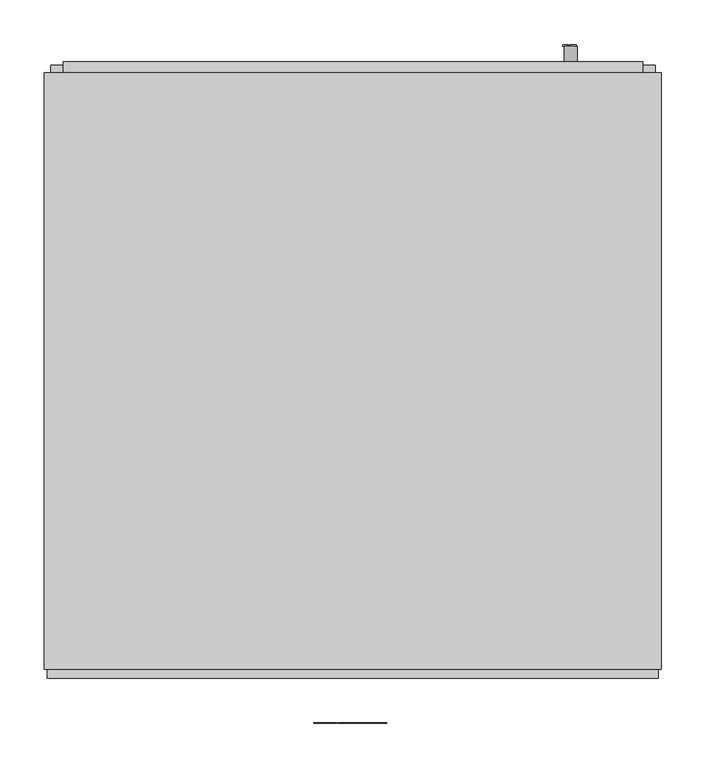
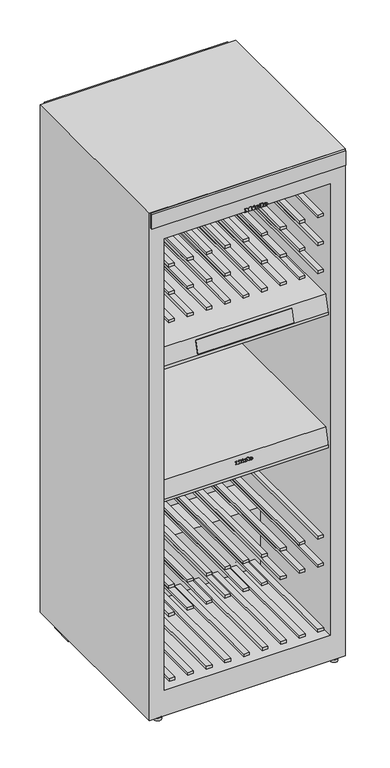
"""IFC4 building model written with IfcOpenShell, lengths in millimetres: proxy geometry, 09472250_AUS_KWT6831SG : 36683100_AUS_9472250_KWT6831SG."""

from ifc_helpers import new_model, si_unit, point, frame, frame_2d, origin, origin_with_axes, place, context, project, spatial, polyline, circle_curve, ellipse_curve, trimmed, segment, composite_curve, outline, extrude, faceted_brep, source, transform, mapped, element, save
from ifc_brep_helpers import plane_surface, cylinder_surface, revolved_surface, extruded_surface, advanced_brep


def specialty_equipment_fe31ec36(model_context):
    return source(origin(), model_context, "Body", "SolidModel", [
        extrude(outline(polyline([(0.0, -5.0), (0.0, 0.0), (342.0, 0.0), (342.0, -5.0), (0.0, -5.0)])), frame((171.0, 69.1703709, 1321.2940952), z_axis=(0.0, 0.25881904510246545, 0.9659258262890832), x_axis=(-1.0, 0.0, 0.0)), (0.0, 0.0, 1.0), 48.0),
        advanced_brep(
        [(21.8256669, 73.8348323, 857.0899422), (21.8256669, 74.0962396, 858.0655273), (28.5156669, 74.0962396, 858.0655273), (16.8756669, 74.0962396, 858.0655273), (19.6256669, 73.2214312, 854.800698), (28.3456669, 73.8348323, 857.0899422), (25.3256669, 73.8348323, 857.0899422), (22.9456669, 73.544955, 856.0081053), (21.8256669, 74.4275279, 859.3019123), (21.8256669, 74.7096407, 860.3547715), (23.5356669, 74.7096407, 860.3547715), (23.5356669, 74.4275279, 859.3019123), (21.8256669, 74.8007582, 856.8311232), (22.9456669, 74.5108808, 855.7492862), (25.3256669, 74.8007582, 856.8311232), (28.3456669, 74.8007582, 856.8311232), (19.6256669, 74.187357, 854.5418789), (16.8756669, 75.0621654, 857.8067082), (28.5156669, 75.0621654, 857.8067082), (21.8256669, 75.0621654, 857.8067082), (21.8256669, 75.3934538, 859.0430933), (23.5356669, 75.3934538, 859.0430933), (23.5356669, 75.6755665, 860.0959524), (21.8256669, 75.6755665, 860.0959524)],
        [
            (0, 1),
            (1, 2),
            (2, 3, ellipse_curve(frame((22.6956669, 74.0962396, 858.0655273), z_axis=(0.0, -0.9659258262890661, 0.2588190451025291), x_axis=(-1.0, 0.0, 0.0)), 5.82, 4.81)),
            (3, 4, circle_curve(frame((20.7457214, 74.184238, 858.3939421), z_axis=(0.0, -0.9659258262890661, 0.2588190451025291), x_axis=(0.0, -0.2588190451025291, -0.9659258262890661)), 3.884961)),
            (4, 5, circle_curve(frame((22.5791589, 74.8675203, 860.9439862), z_axis=(0.0, -0.9659258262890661, 0.2588190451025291), x_axis=(0.0, -0.2588190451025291, -0.9659258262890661)), 7.0123259)),
            (5, 6),
            (6, 7, circle_curve(frame((23.4344904, 74.075534, 857.9882532), z_axis=(0.0, 0.9659258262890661, -0.2588190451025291), x_axis=(0.0, -0.2588190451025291, -0.9659258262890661)), 2.1074744)),
            (7, 0, circle_curve(frame((22.9456669, 73.8348323, 857.0899422), z_axis=(0.0, 0.9659258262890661, -0.2588190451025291), x_axis=(0.0, -0.2588190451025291, -0.9659258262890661)), 1.12)),
            (8, 9),
            (9, 10, circle_curve(frame((22.6806669, 74.7096407, 860.3547715), z_axis=(0.0, 0.9659258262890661, -0.2588190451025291), x_axis=(0.0, -0.2588190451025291, -0.9659258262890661)), 0.855)),
            (10, 11),
            (11, 8),
            (12, 13, circle_curve(frame((22.9456669, 74.8007582, 856.8311232), z_axis=(0.0, -0.9659258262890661, 0.2588190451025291), x_axis=(0.0, -0.2588190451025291, -0.9659258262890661)), 1.12)),
            (13, 14, circle_curve(frame((23.4344904, 75.0414599, 857.7294342), z_axis=(0.0, -0.9659258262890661, 0.2588190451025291), x_axis=(0.0, -0.2588190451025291, -0.9659258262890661)), 2.1074744)),
            (14, 15),
            (15, 16, circle_curve(frame((22.5791589, 75.8334461, 860.6851672), z_axis=(0.0, 0.9659258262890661, -0.2588190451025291), x_axis=(0.0, -0.2588190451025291, -0.9659258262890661)), 7.0123259)),
            (16, 17, circle_curve(frame((20.7457214, 75.1501639, 858.135123), z_axis=(0.0, 0.9659258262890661, -0.2588190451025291), x_axis=(0.0, -0.2588190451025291, -0.9659258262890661)), 3.884961)),
            (17, 18, ellipse_curve(frame((22.6956669, 75.0621654, 857.8067082), z_axis=(0.0, 0.9659258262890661, -0.2588190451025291), x_axis=(-1.0, 0.0, 0.0)), 5.82, 4.81)),
            (18, 19),
            (19, 12),
            (20, 21),
            (21, 22),
            (22, 23, circle_curve(frame((22.6806669, 75.6755665, 860.0959524), z_axis=(0.0, -0.9659258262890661, 0.2588190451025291), x_axis=(0.0, -0.2588190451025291, -0.9659258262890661)), 0.855)),
            (23, 20),
            (0, 12),
            (19, 1),
            (18, 2),
            (5, 15),
            (14, 6),
            (17, 3),
            (13, 7),
            (16, 4),
            (8, 20),
            (23, 9),
            (22, 10),
            (21, 11),
        ],
        [
            plane_surface(frame((21.8256669, 74.0962396, 858.0655273), z_axis=(0.0, -0.9659258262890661, 0.2588190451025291), x_axis=(0.0, 0.2588190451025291, 0.9659258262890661))),
            plane_surface(frame((21.8256669, 75.0621654, 857.8067082), z_axis=(0.0, 0.9659258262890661, -0.2588190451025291), x_axis=(0.0, -0.2588190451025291, -0.9659258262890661))),
            plane_surface(frame((21.8256669, 73.8348323, 857.0899422), z_axis=(1.0, 0.0, 0.0), x_axis=(0.0, 0.9659258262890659, -0.2588190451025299))),
            plane_surface(frame((21.8256669, 74.0962396, 858.0655273), z_axis=(0.0, -0.2588190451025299, -0.9659258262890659), x_axis=(0.0, 0.9659258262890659, -0.2588190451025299))),
            plane_surface(frame((28.3456669, 73.8348323, 857.0899422), z_axis=(0.0, 0.2588190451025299, 0.9659258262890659), x_axis=(0.0, 0.9659258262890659, -0.2588190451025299))),
            extruded_surface(trimmed(ellipse_curve(frame((22.6956669, 76.0280912, 857.5478892), z_axis=(0.0, -0.9659258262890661, 0.2588190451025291), x_axis=(-1.0, 0.0, 0.0)), 5.82, 4.81), [point((28.5156669, 76.0280912, 857.5478892))], [point((16.8756669, 76.0280912, 857.5478892))], True, "CARTESIAN"), (0.0, -0.9659258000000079, 0.2588190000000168), 0.9999999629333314),
            revolved_surface(polyline([(23.4344904, 74.49600539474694, 855.6937702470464), (23.4344904, 73.5300795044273, 855.9525893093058)]), (23.4344904, 75.0414599, 857.7294342), (0.0, 0.9659258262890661, -0.2588190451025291)),
            revolved_surface(polyline([(22.9456669, 74.51088086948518, 855.7492862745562), (22.9456669, 73.5449549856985, 856.0081053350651)]), (22.9456669, 74.8007582, 856.8311232), (0.0, 0.9659258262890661, -0.2588190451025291)),
            cylinder_surface(frame((20.7457214, 75.1501639, 858.135123), z_axis=(0.0, -0.9659258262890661, 0.2588190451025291), x_axis=(0.0, -0.2588190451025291, -0.9659258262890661)), 3.884961),
            cylinder_surface(frame((22.5791589, 75.8334461, 860.6851672), z_axis=(0.0, -0.9659258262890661, 0.2588190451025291), x_axis=(0.0, -0.2588190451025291, -0.9659258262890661)), 7.0123259),
            plane_surface(frame((21.8256669, 74.4275279, 859.3019123), z_axis=(1.0, 0.0, 0.0), x_axis=(0.0, 0.9659258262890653, -0.25881904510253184))),
            revolved_surface(polyline([(22.6806669, 75.45427621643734, 859.2700858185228), (22.6806669, 74.48835040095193, 859.5289048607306)]), (22.6806669, 75.6755665, 860.0959524), (0.0, 0.9659258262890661, -0.2588190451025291)),
            plane_surface(frame((23.5356669, 74.7096407, 860.3547715), z_axis=(-1.0, 0.0, 0.0), x_axis=(0.0, 0.9659258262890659, -0.2588190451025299))),
            plane_surface(frame((23.5356669, 74.4275279, 859.3019123), z_axis=(0.0, 0.2588190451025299, 0.9659258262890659), x_axis=(0.0, 0.9659258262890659, -0.2588190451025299))),
        ],
        [
            (0, [[1, 2, 3, 4, 5, 6, 7, 8], [9, 10, 11, 12]]),
            (1, [[13, 14, 15, 16, 17, 18, 19, 20], [21, 22, 23, 24]]),
            (2, [[-1, 25, -20, 26]]),
            (3, [[-2, -26, -19, 27]]),
            (4, [[-6, 28, -15, 29]]),
            (5, [[-3, -27, -18, 30]]),
            (6, [[-7, -29, -14, 31]]),
            (7, [[-8, -31, -13, -25]]),
            (8, [[-4, -30, -17, 32]]),
            (9, [[-5, -32, -16, -28]]),
            (10, [[-9, 33, -24, 34]]),
            (11, [[-10, -34, -23, 35]]),
            (12, [[-11, -35, -22, 36]]),
            (13, [[-12, -36, -21, -33]]),
        ],
    ),
        advanced_brep(
        [(0.9556669, 73.8348323, 857.0899422), (0.9556669, 74.0962396, 858.0655273), (7.6456669, 74.0962396, 858.0655273), (-3.9943331, 74.0962396, 858.0655273), (-1.2443331, 73.2214312, 854.800698), (7.4756669, 73.8348323, 857.0899422), (4.4556669, 73.8348323, 857.0899422), (2.0756669, 73.544955, 856.0081053), (0.9556669, 74.4275279, 859.3019123), (0.9556669, 74.7096407, 860.3547715), (2.6656669, 74.7096407, 860.3547715), (2.6656669, 74.4275279, 859.3019123), (0.9556669, 74.8007582, 856.8311232), (2.0756669, 74.5108808, 855.7492862), (4.4556669, 74.8007582, 856.8311232), (7.4756669, 74.8007582, 856.8311232), (-1.2443331, 74.187357, 854.5418789), (-3.9943331, 75.0621654, 857.8067082), (7.6456669, 75.0621654, 857.8067082), (0.9556669, 75.0621654, 857.8067082), (0.9556669, 75.3934538, 859.0430933), (2.6656669, 75.3934538, 859.0430933), (2.6656669, 75.6755665, 860.0959524), (0.9556669, 75.6755665, 860.0959524)],
        [
            (0, 1),
            (1, 2),
            (2, 3, ellipse_curve(frame((1.8256669, 74.0962396, 858.0655273), z_axis=(0.0, -0.9659258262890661, 0.2588190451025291), x_axis=(-1.0, 0.0, 0.0)), 5.82, 4.81)),
            (3, 4, circle_curve(frame((-0.1242786, 74.184238, 858.3939421), z_axis=(0.0, -0.9659258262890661, 0.2588190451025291), x_axis=(0.0, -0.2588190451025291, -0.9659258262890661)), 3.884961)),
            (4, 5, circle_curve(frame((1.7091589, 74.8675203, 860.9439862), z_axis=(0.0, -0.9659258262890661, 0.2588190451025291), x_axis=(0.0, -0.2588190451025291, -0.9659258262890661)), 7.0123259)),
            (5, 6),
            (6, 7, circle_curve(frame((2.5644904, 74.075534, 857.9882532), z_axis=(0.0, 0.9659258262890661, -0.2588190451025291), x_axis=(0.0, -0.2588190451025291, -0.9659258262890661)), 2.1074744)),
            (7, 0, circle_curve(frame((2.0756669, 73.8348323, 857.0899422), z_axis=(0.0, 0.9659258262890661, -0.2588190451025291), x_axis=(0.0, -0.2588190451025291, -0.9659258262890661)), 1.12)),
            (8, 9),
            (9, 10, circle_curve(frame((1.8106669, 74.7096407, 860.3547715), z_axis=(0.0, 0.9659258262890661, -0.2588190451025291), x_axis=(0.0, -0.2588190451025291, -0.9659258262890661)), 0.855)),
            (10, 11),
            (11, 8),
            (12, 13, circle_curve(frame((2.0756669, 74.8007582, 856.8311232), z_axis=(0.0, -0.9659258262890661, 0.2588190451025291), x_axis=(0.0, -0.2588190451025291, -0.9659258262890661)), 1.12)),
            (13, 14, circle_curve(frame((2.5644904, 75.0414599, 857.7294342), z_axis=(0.0, -0.9659258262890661, 0.2588190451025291), x_axis=(0.0, -0.2588190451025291, -0.9659258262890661)), 2.1074744)),
            (14, 15),
            (15, 16, circle_curve(frame((1.7091589, 75.8334461, 860.6851672), z_axis=(0.0, 0.9659258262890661, -0.2588190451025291), x_axis=(0.0, -0.2588190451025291, -0.9659258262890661)), 7.0123259)),
            (16, 17, circle_curve(frame((-0.1242786, 75.1501639, 858.135123), z_axis=(0.0, 0.9659258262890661, -0.2588190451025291), x_axis=(0.0, -0.2588190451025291, -0.9659258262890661)), 3.884961)),
            (17, 18, ellipse_curve(frame((1.8256669, 75.0621654, 857.8067082), z_axis=(0.0, 0.9659258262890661, -0.2588190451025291), x_axis=(-1.0, 0.0, 0.0)), 5.82, 4.81)),
            (18, 19),
            (19, 12),
            (20, 21),
            (21, 22),
            (22, 23, circle_curve(frame((1.8106669, 75.6755665, 860.0959524), z_axis=(0.0, -0.9659258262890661, 0.2588190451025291), x_axis=(0.0, -0.2588190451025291, -0.9659258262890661)), 0.855)),
            (23, 20),
            (0, 12),
            (19, 1),
            (18, 2),
            (5, 15),
            (14, 6),
            (17, 3),
            (13, 7),
            (16, 4),
            (8, 20),
            (23, 9),
            (22, 10),
            (21, 11),
        ],
        [
            plane_surface(frame((0.9556669, 74.0962396, 858.0655273), z_axis=(0.0, -0.9659258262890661, 0.2588190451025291), x_axis=(0.0, 0.2588190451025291, 0.9659258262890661))),
            plane_surface(frame((0.9556669, 75.0621654, 857.8067082), z_axis=(0.0, 0.9659258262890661, -0.2588190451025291), x_axis=(0.0, -0.2588190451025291, -0.9659258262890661))),
            plane_surface(frame((0.9556669, 73.8348323, 857.0899422), z_axis=(1.0, 0.0, 0.0), x_axis=(0.0, 0.9659258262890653, -0.25881904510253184))),
            plane_surface(frame((0.9556669, 74.0962396, 858.0655273), z_axis=(0.0, -0.2588190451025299, -0.9659258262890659), x_axis=(0.0, 0.9659258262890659, -0.2588190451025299))),
            plane_surface(frame((7.4756669, 73.8348323, 857.0899422), z_axis=(0.0, 0.2588190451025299, 0.9659258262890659), x_axis=(0.0, 0.9659258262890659, -0.2588190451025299))),
            extruded_surface(trimmed(ellipse_curve(frame((1.8256669, 76.0280912, 857.5478892), z_axis=(0.0, -0.9659258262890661, 0.2588190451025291), x_axis=(-1.0, 0.0, 0.0)), 5.82, 4.81), [point((7.6456669, 76.0280912, 857.5478892))], [point((-3.9943331, 76.0280912, 857.5478892))], True, "CARTESIAN"), (0.0, -0.9659258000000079, 0.2588190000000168), 0.9999999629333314),
            revolved_surface(polyline([(2.5644904, 74.49600539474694, 855.6937702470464), (2.5644904, 73.5300795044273, 855.9525893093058)]), (2.5644904, 75.0414599, 857.7294342), (0.0, 0.9659258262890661, -0.2588190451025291)),
            revolved_surface(polyline([(2.0756669, 74.51088086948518, 855.7492862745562), (2.0756669, 73.5449549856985, 856.0081053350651)]), (2.0756669, 74.8007582, 856.8311232), (0.0, 0.9659258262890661, -0.2588190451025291)),
            cylinder_surface(frame((-0.1242786, 75.1501639, 858.135123), z_axis=(0.0, -0.9659258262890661, 0.2588190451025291), x_axis=(0.0, -0.2588190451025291, -0.9659258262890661)), 3.884961),
            cylinder_surface(frame((1.7091589, 75.8334461, 860.6851672), z_axis=(0.0, -0.9659258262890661, 0.2588190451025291), x_axis=(0.0, -0.2588190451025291, -0.9659258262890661)), 7.0123259),
            plane_surface(frame((0.9556669, 74.4275279, 859.3019123), z_axis=(1.0, 0.0, 0.0), x_axis=(0.0, 0.9659258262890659, -0.2588190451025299))),
            revolved_surface(polyline([(1.8106669, 75.45427621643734, 859.2700858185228), (1.8106669, 74.48835040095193, 859.5289048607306)]), (1.8106669, 75.6755665, 860.0959524), (0.0, 0.9659258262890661, -0.2588190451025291)),
            plane_surface(frame((2.6656669, 74.7096407, 860.3547715), z_axis=(-1.0, 0.0, 0.0), x_axis=(0.0, 0.9659258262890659, -0.2588190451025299))),
            plane_surface(frame((2.6656669, 74.4275279, 859.3019123), z_axis=(0.0, 0.2588190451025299, 0.9659258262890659), x_axis=(0.0, 0.9659258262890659, -0.2588190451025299))),
        ],
        [
            (0, [[1, 2, 3, 4, 5, 6, 7, 8], [9, 10, 11, 12]]),
            (1, [[13, 14, 15, 16, 17, 18, 19, 20], [21, 22, 23, 24]]),
            (2, [[-1, 25, -20, 26]]),
            (3, [[-2, -26, -19, 27]]),
            (4, [[-6, 28, -15, 29]]),
            (5, [[-3, -27, -18, 30]]),
            (6, [[-7, -29, -14, 31]]),
            (7, [[-8, -31, -13, -25]]),
            (8, [[-4, -30, -17, 32]]),
            (9, [[-5, -32, -16, -28]]),
            (10, [[-9, 33, -24, 34]]),
            (11, [[-10, -34, -23, 35]]),
            (12, [[-11, -35, -22, 36]]),
            (13, [[-12, -36, -21, -33]]),
        ],
    ),
        extrude(outline(polyline([(0.0, 0.0), (-0.0136358, -3.7491618), (-1.7988019, -3.7401085), (-1.7894134, 0.0), (0.0, 0.0)])), frame((-9.9743331, 76.6228442, 863.631241), z_axis=(0.0, -0.9659258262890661, 0.2588190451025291), x_axis=(-0.42472021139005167, 0.2343152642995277, 0.874476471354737)), (0.0, 0.0, 1.0), 1.0),
        extrude(outline(polyline([(-0.6167384, 3.0176371), (-3.4751054, -3.0751979), (-8.8074678, -0.5735958), (-9.3001432, -1.6237724), (-10.8210887, -0.9102424), (-7.4700462, 6.2327691), (-5.9491008, 5.5192392), (-6.4545178, 4.4419028), (-2.7426867, 2.70055), (-2.2372696, 3.7778863), (-0.6167384, 3.0176371)])), frame((-9.9743331, 76.6228442, 863.631241), z_axis=(0.0, -0.9659258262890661, 0.2588190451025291), x_axis=(-0.42472021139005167, 0.2343152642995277, 0.874476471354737)), (0.0, 0.0, 1.0), 1.0),
        extrude(outline(polyline([(0.0, 0.0), (0.0, -1.63), (-6.88, -1.63), (-6.88, 6.69), (-8.11, 6.69), (-8.11, 8.37), (0.0, 8.37), (0.0, 6.69), (-1.2, 6.69), (-1.2, 0.0), (0.0, 0.0)])), frame((8.2056669, 76.3536724, 862.6266781), z_axis=(0.0, -0.9659258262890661, 0.2588190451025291), x_axis=(-1.0, 0.0, 0.0)), (0.0, 0.0, 1.0), 1.0),
        extrude(outline(polyline([(0.0, 0.0), (0.0, -1.63), (-6.97, -1.63), (-9.9, 2.12), (-12.82, -1.63), (-18.91, -1.63), (-18.91, 0.0), (-17.64, 0.0), (-17.64, 6.69), (-18.91, 6.69), (-18.91, 8.37), (-10.93, 8.37), (-10.93, 6.69), (-12.16, 6.69), (-12.16, 2.3807777), (-7.67, 8.37), (-3.2, 2.4488752), (-3.2, 6.69), (-4.4, 6.69), (-4.4, 8.37), (0.0, 8.37), (0.0, 6.69), (-1.21, 6.69), (-1.21, 0.0), (0.0, 0.0)])), frame((-32.3743331, 76.3536724, 862.6266781), z_axis=(0.0, -0.9659258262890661, 0.2588190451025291), x_axis=(-1.0, 0.0, 0.0)), (0.0, 0.0, 1.0), 1.0),
        advanced_brep(
        [(29.17, -1.0, 1856.2526911), (29.17, -1.0, 1857.6161911), (38.2015, -1.0, 1857.6161911), (22.4875, -1.0, 1857.6161911), (26.2, -1.0, 1853.0531911), (37.972, -1.0, 1856.2526911), (33.895, -1.0, 1856.2526911), (30.682, -1.0, 1854.7406911), (29.17, -1.0, 1859.3441911), (29.17, -1.0, 1860.8156911), (31.4785, -1.0, 1860.8156911), (31.4785, -1.0, 1859.3441911), (29.17, 0.0, 1856.2526911), (30.682, 0.0, 1854.7406911), (33.895, 0.0, 1856.2526911), (37.972, 0.0, 1856.2526911), (26.2, 0.0, 1853.0531911), (22.4875, 0.0, 1857.6161911), (38.2015, 0.0, 1857.6161911), (29.17, 0.0, 1857.6161911), (29.17, 0.0, 1859.3441911), (31.4785, 0.0, 1859.3441911), (31.4785, 0.0, 1860.8156911), (29.17, 0.0, 1860.8156911)],
        [
            (0, 1),
            (1, 2),
            (2, 3, ellipse_curve(frame((30.3445, -1.0, 1857.6161911), z_axis=(0.0, -1.0, 0.0), x_axis=(-1.0, 0.0, 0.0)), 7.857, 6.4935)),
            (3, 4, circle_curve(frame((27.7120736, -1.0, 1858.0751911), z_axis=(0.0, -1.0, 0.0), x_axis=(0.0, 0.0, -1.0)), 5.2446974)),
            (4, 5, circle_curve(frame((30.1872142, -1.0, 1861.6391911), z_axis=(0.0, -1.0, 0.0), x_axis=(0.0, 0.0, -1.0)), 9.46664)),
            (5, 6),
            (6, 7, circle_curve(frame((31.3419118, -1.0, 1857.5081911), z_axis=(0.0, 1.0, 0.0), x_axis=(0.0, 0.0, -1.0)), 2.8450905)),
            (7, 0, circle_curve(frame((30.682, -1.0, 1856.2526911), z_axis=(0.0, 1.0, 0.0), x_axis=(0.0, 0.0, -1.0)), 1.512)),
            (8, 9),
            (9, 10, circle_curve(frame((30.32425, -1.0, 1860.8156911), z_axis=(0.0, 1.0, 0.0), x_axis=(0.0, 0.0, -1.0)), 1.15425)),
            (10, 11),
            (11, 8),
            (12, 13, circle_curve(frame((30.682, 0.0, 1856.2526911), z_axis=(0.0, -1.0, 0.0), x_axis=(0.0, 0.0, -1.0)), 1.512)),
            (13, 14, circle_curve(frame((31.3419118, 0.0, 1857.5081911), z_axis=(0.0, -1.0, 0.0), x_axis=(0.0, 0.0, -1.0)), 2.8450905)),
            (14, 15),
            (15, 16, circle_curve(frame((30.1872142, 0.0, 1861.6391911), z_axis=(0.0, 1.0, 0.0), x_axis=(0.0, 0.0, -1.0)), 9.46664)),
            (16, 17, circle_curve(frame((27.7120736, 0.0, 1858.0751911), z_axis=(0.0, 1.0, 0.0), x_axis=(0.0, 0.0, -1.0)), 5.2446974)),
            (17, 18, ellipse_curve(frame((30.3445, 0.0, 1857.6161911), z_axis=(0.0, 1.0, 0.0), x_axis=(-1.0, 0.0, 0.0)), 7.857, 6.4935)),
            (18, 19),
            (19, 12),
            (20, 21),
            (21, 22),
            (22, 23, circle_curve(frame((30.32425, 0.0, 1860.8156911), z_axis=(0.0, -1.0, 0.0), x_axis=(0.0, 0.0, -1.0)), 1.15425)),
            (23, 20),
            (0, 12),
            (19, 1),
            (18, 2),
            (5, 15),
            (14, 6),
            (17, 3),
            (13, 7),
            (16, 4),
            (8, 20),
            (23, 9),
            (22, 10),
            (21, 11),
        ],
        [
            plane_surface(frame((29.17, -1.0, 1857.6161911), z_axis=(0.0, -1.0, 0.0), x_axis=(0.0, 0.0, 1.0))),
            plane_surface(frame((29.17, 0.0, 1857.6161911), z_axis=(0.0, 1.0, 0.0), x_axis=(0.0, 0.0, -1.0))),
            plane_surface(frame((29.17, -1.0, 1856.2526911), z_axis=(1.0, 0.0, 0.0), x_axis=(0.0, 1.0, 0.0))),
            plane_surface(frame((29.17, -1.0, 1857.6161911), z_axis=(0.0, 0.0, -1.0), x_axis=(0.0, 1.0, 0.0))),
            plane_surface(frame((37.972, -1.0, 1856.2526911), z_axis=(0.0, 0.0, 1.0), x_axis=(0.0, 1.0, 0.0))),
            extruded_surface(trimmed(ellipse_curve(frame((30.3445, 1.0, 1857.6161911), z_axis=(0.0, -1.0, 0.0), x_axis=(-1.0, 0.0, 0.0)), 7.857, 6.4935), [point((38.2015, 1.0, 1857.6161911))], [point((22.4875, 1.0, 1857.6161911))], True, "CARTESIAN"), (0.0, -1.0, 0.0), 1.0),
            revolved_surface(polyline([(31.3419118, 0.0, 1854.6631006), (31.3419118, -1.0, 1854.6631006)]), (31.3419118, 0.0, 1857.5081911), (0.0, 1.0, 0.0)),
            revolved_surface(polyline([(30.682, 0.0, 1854.7406911), (30.682, -1.0, 1854.7406911)]), (30.682, 0.0, 1856.2526911), (0.0, 1.0, 0.0)),
            cylinder_surface(frame((27.7120736, 0.0, 1858.0751911), z_axis=(0.0, -1.0, 0.0), x_axis=(0.0, 0.0, -1.0)), 5.2446974),
            cylinder_surface(frame((30.1872142, 0.0, 1861.6391911), z_axis=(0.0, -1.0, 0.0), x_axis=(0.0, 0.0, -1.0)), 9.46664),
            plane_surface(frame((29.17, -1.0, 1859.3441911), z_axis=(1.0, 0.0, 0.0), x_axis=(0.0, 1.0, 0.0))),
            revolved_surface(polyline([(30.32425, 0.0, 1859.6614411), (30.32425, -1.0, 1859.6614411)]), (30.32425, 0.0, 1860.8156911), (0.0, 1.0, 0.0)),
            plane_surface(frame((31.4785, -1.0, 1860.8156911), z_axis=(-1.0, 0.0, 0.0), x_axis=(0.0, 1.0, 0.0))),
            plane_surface(frame((31.4785, -1.0, 1859.3441911), z_axis=(0.0, 0.0, 1.0), x_axis=(0.0, 1.0, 0.0))),
        ],
        [
            (0, [[1, 2, 3, 4, 5, 6, 7, 8], [9, 10, 11, 12]]),
            (1, [[13, 14, 15, 16, 17, 18, 19, 20], [21, 22, 23, 24]]),
            (2, [[-1, 25, -20, 26]]),
            (3, [[-2, -26, -19, 27]]),
            (4, [[-6, 28, -15, 29]]),
            (5, [[-3, -27, -18, 30]]),
            (6, [[-7, -29, -14, 31]]),
            (7, [[-8, -31, -13, -25]]),
            (8, [[-4, -30, -17, 32]]),
            (9, [[-5, -32, -16, -28]]),
            (10, [[-9, 33, -24, 34]]),
            (11, [[-10, -34, -23, 35]]),
            (12, [[-11, -35, -22, 36]]),
            (13, [[-12, -36, -21, -33]]),
        ],
    ),
        advanced_brep(
        [(0.9955, -1.0, 1856.2526911), (0.9955, -1.0, 1857.6161911), (10.027, -1.0, 1857.6161911), (-5.687, -1.0, 1857.6161911), (-1.9745, -1.0, 1853.0531911), (9.7975, -1.0, 1856.2526911), (5.7205, -1.0, 1856.2526911), (2.5075, -1.0, 1854.7406911), (0.9955, -1.0, 1859.3441911), (0.9955, -1.0, 1860.8156911), (3.304, -1.0, 1860.8156911), (3.304, -1.0, 1859.3441911), (0.9955, 0.0, 1856.2526911), (2.5075, 0.0, 1854.7406911), (5.7205, 0.0, 1856.2526911), (9.7975, 0.0, 1856.2526911), (-1.9745, 0.0, 1853.0531911), (-5.687, 0.0, 1857.6161911), (10.027, 0.0, 1857.6161911), (0.9955, 0.0, 1857.6161911), (0.9955, 0.0, 1859.3441911), (3.304, 0.0, 1859.3441911), (3.304, 0.0, 1860.8156911), (0.9955, 0.0, 1860.8156911)],
        [
            (0, 1),
            (1, 2),
            (2, 3, ellipse_curve(frame((2.17, -1.0, 1857.6161911), z_axis=(0.0, -1.0, 0.0), x_axis=(-1.0, 0.0, 0.0)), 7.857, 6.4935)),
            (3, 4, circle_curve(frame((-0.4624264, -1.0, 1858.0751911), z_axis=(0.0, -1.0, 0.0), x_axis=(0.0, 0.0, -1.0)), 5.2446974)),
            (4, 5, circle_curve(frame((2.0127142, -1.0, 1861.6391911), z_axis=(0.0, -1.0, 0.0), x_axis=(0.0, 0.0, -1.0)), 9.46664)),
            (5, 6),
            (6, 7, circle_curve(frame((3.1674118, -1.0, 1857.5081911), z_axis=(0.0, 1.0, 0.0), x_axis=(0.0, 0.0, -1.0)), 2.8450905)),
            (7, 0, circle_curve(frame((2.5075, -1.0, 1856.2526911), z_axis=(0.0, 1.0, 0.0), x_axis=(0.0, 0.0, -1.0)), 1.512)),
            (8, 9),
            (9, 10, circle_curve(frame((2.14975, -1.0, 1860.8156911), z_axis=(0.0, 1.0, 0.0), x_axis=(0.0, 0.0, -1.0)), 1.15425)),
            (10, 11),
            (11, 8),
            (12, 13, circle_curve(frame((2.5075, 0.0, 1856.2526911), z_axis=(0.0, -1.0, 0.0), x_axis=(0.0, 0.0, -1.0)), 1.512)),
            (13, 14, circle_curve(frame((3.1674118, 0.0, 1857.5081911), z_axis=(0.0, -1.0, 0.0), x_axis=(0.0, 0.0, -1.0)), 2.8450905)),
            (14, 15),
            (15, 16, circle_curve(frame((2.0127142, 0.0, 1861.6391911), z_axis=(0.0, 1.0, 0.0), x_axis=(0.0, 0.0, -1.0)), 9.46664)),
            (16, 17, circle_curve(frame((-0.4624264, 0.0, 1858.0751911), z_axis=(0.0, 1.0, 0.0), x_axis=(0.0, 0.0, -1.0)), 5.2446974)),
            (17, 18, ellipse_curve(frame((2.17, 0.0, 1857.6161911), z_axis=(0.0, 1.0, 0.0), x_axis=(-1.0, 0.0, 0.0)), 7.857, 6.4935)),
            (18, 19),
            (19, 12),
            (20, 21),
            (21, 22),
            (22, 23, circle_curve(frame((2.14975, 0.0, 1860.8156911), z_axis=(0.0, -1.0, 0.0), x_axis=(0.0, 0.0, -1.0)), 1.15425)),
            (23, 20),
            (0, 12),
            (19, 1),
            (18, 2),
            (5, 15),
            (14, 6),
            (17, 3),
            (13, 7),
            (16, 4),
            (8, 20),
            (23, 9),
            (22, 10),
            (21, 11),
        ],
        [
            plane_surface(frame((0.9955, -1.0, 1857.6161911), z_axis=(0.0, -1.0, 0.0), x_axis=(0.0, 0.0, 1.0))),
            plane_surface(frame((0.9955, 0.0, 1857.6161911), z_axis=(0.0, 1.0, 0.0), x_axis=(0.0, 0.0, -1.0))),
            plane_surface(frame((0.9955, -1.0, 1856.2526911), z_axis=(1.0, 0.0, 0.0), x_axis=(0.0, 1.0, 0.0))),
            plane_surface(frame((0.9955, -1.0, 1857.6161911), z_axis=(0.0, 0.0, -1.0), x_axis=(0.0, 1.0, 0.0))),
            plane_surface(frame((9.7975, -1.0, 1856.2526911), z_axis=(0.0, 0.0, 1.0), x_axis=(0.0, 1.0, 0.0))),
            extruded_surface(trimmed(ellipse_curve(frame((2.17, 1.0, 1857.6161911), z_axis=(0.0, -1.0, 0.0), x_axis=(-1.0, 0.0, 0.0)), 7.857, 6.4935), [point((10.027, 1.0, 1857.6161911))], [point((-5.687, 1.0, 1857.6161911))], True, "CARTESIAN"), (0.0, -1.0, 0.0), 1.0),
            revolved_surface(polyline([(3.1674118, 0.0, 1854.6631006), (3.1674118, -1.0, 1854.6631006)]), (3.1674118, 0.0, 1857.5081911), (0.0, 1.0, 0.0)),
            revolved_surface(polyline([(2.5075, 0.0, 1854.7406911), (2.5075, -1.0, 1854.7406911)]), (2.5075, 0.0, 1856.2526911), (0.0, 1.0, 0.0)),
            cylinder_surface(frame((-0.4624264, 0.0, 1858.0751911), z_axis=(0.0, -1.0, 0.0), x_axis=(0.0, 0.0, -1.0)), 5.2446974),
            cylinder_surface(frame((2.0127142, 0.0, 1861.6391911), z_axis=(0.0, -1.0, 0.0), x_axis=(0.0, 0.0, -1.0)), 9.46664),
            plane_surface(frame((0.9955, -1.0, 1859.3441911), z_axis=(1.0, 0.0, 0.0), x_axis=(0.0, 1.0, 0.0))),
            revolved_surface(polyline([(2.14975, 0.0, 1859.6614411), (2.14975, -1.0, 1859.6614411)]), (2.14975, 0.0, 1860.8156911), (0.0, 1.0, 0.0)),
            plane_surface(frame((3.304, -1.0, 1860.8156911), z_axis=(-1.0, 0.0, 0.0), x_axis=(0.0, 1.0, 0.0))),
            plane_surface(frame((3.304, -1.0, 1859.3441911), z_axis=(0.0, 0.0, 1.0), x_axis=(0.0, 1.0, 0.0))),
        ],
        [
            (0, [[1, 2, 3, 4, 5, 6, 7, 8], [9, 10, 11, 12]]),
            (1, [[13, 14, 15, 16, 17, 18, 19, 20], [21, 22, 23, 24]]),
            (2, [[-1, 25, -20, 26]]),
            (3, [[-2, -26, -19, 27]]),
            (4, [[-6, 28, -15, 29]]),
            (5, [[-3, -27, -18, 30]]),
            (6, [[-7, -29, -14, 31]]),
            (7, [[-8, -31, -13, -25]]),
            (8, [[-4, -30, -17, 32]]),
            (9, [[-5, -32, -16, -28]]),
            (10, [[-9, 33, -24, 34]]),
            (11, [[-10, -34, -23, 35]]),
            (12, [[-11, -35, -22, 36]]),
            (13, [[-12, -36, -21, -33]]),
        ],
    ),
        extrude(outline(polyline([(1865.7566911, -13.76), (1863.5696911, -12.734), (1865.7026911, -8.1575), (1867.8896911, -9.17), (1865.7566911, -13.76)])), frame((0.0, -1.0, 0.0), z_axis=(0.0, 1.0, 0.0), x_axis=(0.0, 0.0, 1.0)), (0.0, 0.0, 1.0), 1.0),
        extrude(outline(polyline([(1863.2726911, -17.0945), (1860.8561911, -17.0945), (1860.8561911, -15.488), (1855.3211911, -15.488), (1855.3211911, -17.0945), (1853.0531911, -17.0945), (1853.0531911, -6.443), (1855.3211911, -6.443), (1855.3211911, -8.009), (1863.2726911, -8.009), (1863.2726911, -17.0945)])), frame((0.0, -1.0, 0.0), z_axis=(0.0, 1.0, 0.0), x_axis=(0.0, 0.0, 1.0)), (0.0, 0.0, 1.0), 1.0),
        extrude(outline(polyline([(1864.3526911, 10.783), (1864.3526911, 12.403), (1855.3211911, 12.403), (1855.3211911, 10.783), (1853.0531911, 10.783), (1853.0531911, 21.7315), (1855.3211911, 21.7315), (1855.3211911, 20.071), (1866.5531911, 20.071), (1866.5531911, 10.783), (1864.3526911, 10.783)])), frame((0.0, -1.0, 0.0), z_axis=(0.0, 1.0, 0.0), x_axis=(0.0, 0.0, 1.0)), (0.0, 0.0, 1.0), 1.0),
        extrude(outline(polyline([(1864.3526911, -44.0), (1864.3526911, -42.3665), (1855.3211911, -42.3665), (1855.3211911, -44.0), (1853.0531911, -44.0), (1853.0531911, -38.06), (1855.3211911, -38.06), (1855.3211911, -39.68), (1861.0288159, -39.68), (1853.0531911, -33.6455), (1861.3059134, -27.584), (1855.3211911, -27.584), (1855.3211911, -29.2445), (1853.0531911, -29.2445), (1853.0531911, -18.4715), (1855.3211911, -18.4715), (1855.3211911, -20.186), (1864.3526911, -20.186), (1864.3526911, -18.4715), (1866.5531911, -18.4715), (1866.5531911, -26.693), (1861.4906911, -30.635), (1866.5531911, -34.5905), (1866.5531911, -44.0), (1864.3526911, -44.0)])), frame((0.0, -1.0, 0.0), z_axis=(0.0, 1.0, 0.0), x_axis=(0.0, 0.0, 1.0)), (0.0, 0.0, 1.0), 1.0),
        extrude(outline(composite_curve([segment(trimmed(circle_curve(frame_2d((45.0, 246.0)), 7.5), [point((45.0, 253.5))], [point((45.0, 238.5))], False, "CARTESIAN"), True, "CONTINUOUS"), segment(trimmed(circle_curve(frame_2d((45.0, 246.0)), 7.5), [point((45.0, 238.5))], [point((45.0, 253.5))], False, "CARTESIAN"), True, "CONTINUOUS")], self_intersect=False)), frame((0.0, 734.0, 0.0), z_axis=(0.0, 1.0, 0.0), x_axis=(0.0, 0.0, 1.0)), (0.0, 0.0, 1.0), 30.0),
        faceted_brep([(348.5, 734.0, 1920.0), (-348.5, 734.0, 1920.0), (-348.5, 60.0, 1920.0), (348.5, 60.0, 1920.0), (348.5, 734.0, 10.0), (-348.5, 734.0, 10.0), (-348.5, 60.0, 10.0), (348.5, 60.0, 10.0), (-295.0, 60.0, 1806.0), (295.0, 60.0, 1806.0), (295.0, 60.0, 106.0), (-295.0, 60.0, 106.0), (295.0, 632.0, 1806.0), (-295.0, 632.0, 1806.0), (-295.0, 632.0, 106.0), (295.0, 632.0, 106.0)], [[[0, 1, 2, 3]], [[1, 0, 4, 5]], [[2, 1, 5, 6]], [[3, 2, 6, 7], [8, 9, 10, 11]], [[0, 3, 7, 4]], [[12, 13, 14, 15]], [[13, 12, 9, 8]], [[14, 13, 8, 11]], [[15, 14, 11, 10]], [[12, 15, 10, 9]], [[5, 4, 7, 6]]]),
        extrude(outline(polyline([(295.0, 490.0), (-295.0, 490.0), (-295.0, 632.0), (295.0, 632.0), (295.0, 490.0)])), frame((0.0, 0.0, 106.0), z_axis=(0.0, 0.0, 1.0), x_axis=(1.0, 0.0, 0.0)), (0.0, 0.0, 1.0), 224.0),
        extrude(outline(composite_curve([segment(polyline([(665.0, 10.0), (695.0, 10.0)]), True, "CONTINUOUS"), segment(trimmed(circle_curve(frame_2d((680.0, 16.25)), 16.25), [point((695.0, 10.0))], [point((665.0, 10.0))], False, "CARTESIAN"), True, "CONTINUOUS")], self_intersect=False)), frame((-315.0, 0.0, 0.0), z_axis=(1.0, 0.0, 0.0), x_axis=(0.0, 1.0, 0.0)), (0.0, 0.0, 1.0), 24.1081034),
        extrude(outline(composite_curve([segment(polyline([(665.0, 10.0), (695.0, 10.0)]), True, "CONTINUOUS"), segment(trimmed(circle_curve(frame_2d((680.0, 16.25)), 16.25), [point((695.0, 10.0))], [point((665.0, 10.0))], False, "CARTESIAN"), True, "CONTINUOUS")], self_intersect=False)), frame((290.8918966, 0.0, 0.0), z_axis=(1.0, 0.0, 0.0), x_axis=(0.0, 1.0, 0.0)), (0.0, 0.0, 1.0), 24.1081034),
        extrude(outline(composite_curve([segment(trimmed(circle_curve(frame_2d((-314.0, 69.5)), 12.5), [point((-301.5, 69.5))], [point((-326.5, 69.5))], False, "CARTESIAN"), True, "CONTINUOUS"), segment(trimmed(circle_curve(frame_2d((-314.0, 69.5)), 12.5), [point((-326.5, 69.5))], [point((-301.5, 69.5))], False, "CARTESIAN"), True, "CONTINUOUS")], self_intersect=False)), origin_with_axes(), (0.0, 0.0, 1.0), 10.0),
        extrude(outline(composite_curve([segment(trimmed(circle_curve(frame_2d((314.0, 69.5)), 12.5), [point((326.5, 69.5))], [point((301.5, 69.5))], False, "CARTESIAN"), True, "CONTINUOUS"), segment(trimmed(circle_curve(frame_2d((314.0, 69.5)), 12.5), [point((301.5, 69.5))], [point((326.5, 69.5))], False, "CARTESIAN"), True, "CONTINUOUS")], self_intersect=False)), origin_with_axes(), (0.0, 0.0, 1.0), 10.0),
        extrude(outline(polyline([(328.9654711, 650.0), (344.9654711, 650.0), (344.9654711, 565.0), (328.9654711, 565.0), (328.9654711, 650.0)])), origin_with_axes(), (0.0, 0.0, 1.0), 10.0),
        extrude(outline(polyline([(-328.9654711, 650.0), (-328.9654711, 565.0), (-344.9654711, 565.0), (-344.9654711, 650.0), (-328.9654711, 650.0)])), origin_with_axes(), (0.0, 0.0, 1.0), 10.0),
        extrude(outline(polyline([(-341.3064832, 742.5), (-325.3064832, 742.5), (-325.3064832, 734.0), (-341.3064832, 734.0), (-341.3064832, 742.5)])), frame((0.0, 0.0, 270.0), z_axis=(0.0, 0.0, 1.0), x_axis=(1.0, 0.0, 0.0)), (0.0, 0.0, 1.0), 38.0),
        extrude(outline(polyline([(325.3064832, 742.5), (341.3064832, 742.5), (341.3064832, 734.0), (325.3064832, 734.0), (325.3064832, 742.5)])), frame((0.0, 0.0, 270.0), z_axis=(0.0, 0.0, 1.0), x_axis=(1.0, 0.0, 0.0)), (0.0, 0.0, 1.0), 38.0),
        extrude(outline(polyline([(-327.2489208, 746.5), (327.2489208, 746.5), (327.2489208, 734.0), (-327.2489208, 734.0), (-327.2489208, 746.5)])), frame((0.0, 0.0, 1839.0), z_axis=(0.0, 0.0, 1.0), x_axis=(1.0, 0.0, 0.0)), (0.0, 0.0, 1.0), 75.0),
        extrude(outline(polyline([(40.3401878, 252.5265002), (50.3858188, 252.5265002), (50.3858188, 245.3062029), (49.1301149, 245.3062029), (49.1301149, 251.2707963), (46.1478182, 251.2707963), (46.1478182, 245.6201289), (44.8921143, 245.6201289), (44.8921143, 251.2707963), (41.5958917, 251.2707963), (41.5958917, 245.1492399), (40.3401878, 245.1492399), (40.3401878, 252.5265002)])), frame((0.0, 764.0, 0.0), z_axis=(0.0, 1.0, 0.0), x_axis=(0.0, 0.0, 1.0)), (0.0, 0.0, 1.0), 2.0),
        extrude(outline(polyline([(40.3401878, 243.2656841), (50.3858188, 243.2656841), (50.3858188, 242.0099802), (41.5958917, 242.0099802), (41.5958917, 236.9871647), (40.3401878, 236.9871647), (40.3401878, 243.2656841)])), frame((0.0, 764.0, 0.0), z_axis=(0.0, 1.0, 0.0), x_axis=(0.0, 0.0, 1.0)), (0.0, 0.0, 1.0), 2.0),
        extrude(outline(polyline([(-345.0, 60.0), (345.0, 60.0), (345.0, 50.0), (-345.0, 50.0), (-345.0, 60.0)])), frame((0.0, 0.0, 1865.0), z_axis=(0.0, 0.0, 1.0), x_axis=(1.0, 0.0, 0.0)), (0.0, 0.0, 1.0), 54.0),
        extrude(outline(polyline([(10.0, 67.0438353), (-10.0, 67.0438353), (-10.0, 632.0), (10.0, 632.0), (10.0, 67.0438353)])), frame((0.0, 0.0, 372.0), z_axis=(0.0, 0.0, 1.0), x_axis=(1.0, 0.0, 0.0)), (0.0, 0.0, 1.0), 10.0),
        extrude(outline(polyline([(-56.25, 67.0438353), (-76.25, 67.0438353), (-76.25, 632.0), (-56.25, 632.0), (-56.25, 67.0438353)])), frame((0.0, 0.0, 372.0), z_axis=(0.0, 0.0, 1.0), x_axis=(1.0, 0.0, 0.0)), (0.0, 0.0, 1.0), 10.0),
        extrude(outline(polyline([(-122.5, 67.0438353), (-142.5, 67.0438353), (-142.5, 632.0), (-122.5, 632.0), (-122.5, 67.0438353)])), frame((0.0, 0.0, 372.0), z_axis=(0.0, 0.0, 1.0), x_axis=(1.0, 0.0, 0.0)), (0.0, 0.0, 1.0), 10.0),
        extrude(outline(polyline([(-188.75, 67.0438353), (-208.75, 67.0438353), (-208.75, 632.0), (-188.75, 632.0), (-188.75, 67.0438353)])), frame((0.0, 0.0, 372.0), z_axis=(0.0, 0.0, 1.0), x_axis=(1.0, 0.0, 0.0)), (0.0, 0.0, 1.0), 10.0),
        extrude(outline(polyline([(-255.0, 67.0438353), (-275.0, 67.0438353), (-275.0, 632.0), (-255.0, 632.0), (-255.0, 67.0438353)])), frame((0.0, 0.0, 372.0), z_axis=(0.0, 0.0, 1.0), x_axis=(1.0, 0.0, 0.0)), (0.0, 0.0, 1.0), 10.0),
        extrude(outline(polyline([(76.25, 67.0438353), (56.25, 67.0438353), (56.25, 632.0), (76.25, 632.0), (76.25, 67.0438353)])), frame((0.0, 0.0, 372.0), z_axis=(0.0, 0.0, 1.0), x_axis=(1.0, 0.0, 0.0)), (0.0, 0.0, 1.0), 10.0),
        extrude(outline(polyline([(142.5, 67.0438353), (122.5, 67.0438353), (122.5, 632.0), (142.5, 632.0), (142.5, 67.0438353)])), frame((0.0, 0.0, 372.0), z_axis=(0.0, 0.0, 1.0), x_axis=(1.0, 0.0, 0.0)), (0.0, 0.0, 1.0), 10.0),
        extrude(outline(polyline([(208.75, 67.0438353), (188.75, 67.0438353), (188.75, 632.0), (208.75, 632.0), (208.75, 67.0438353)])), frame((0.0, 0.0, 372.0), z_axis=(0.0, 0.0, 1.0), x_axis=(1.0, 0.0, 0.0)), (0.0, 0.0, 1.0), 10.0),
        extrude(outline(polyline([(275.0, 67.0438353), (255.0, 67.0438353), (255.0, 632.0), (275.0, 632.0), (275.0, 67.0438353)])), frame((0.0, 0.0, 372.0), z_axis=(0.0, 0.0, 1.0), x_axis=(1.0, 0.0, 0.0)), (0.0, 0.0, 1.0), 10.0),
        extrude(outline(polyline([(10.0, 67.0438353), (-10.0, 67.0438353), (-10.0, 632.0), (10.0, 632.0), (10.0, 67.0438353)])), frame((0.0, 0.0, 478.0), z_axis=(0.0, 0.0, 1.0), x_axis=(1.0, 0.0, 0.0)), (0.0, 0.0, 1.0), 10.0),
        extrude(outline(polyline([(-56.25, 67.0438353), (-76.25, 67.0438353), (-76.25, 632.0), (-56.25, 632.0), (-56.25, 67.0438353)])), frame((0.0, 0.0, 478.0), z_axis=(0.0, 0.0, 1.0), x_axis=(1.0, 0.0, 0.0)), (0.0, 0.0, 1.0), 10.0),
        extrude(outline(polyline([(-122.5, 67.0438353), (-142.5, 67.0438353), (-142.5, 632.0), (-122.5, 632.0), (-122.5, 67.0438353)])), frame((0.0, 0.0, 478.0), z_axis=(0.0, 0.0, 1.0), x_axis=(1.0, 0.0, 0.0)), (0.0, 0.0, 1.0), 10.0),
        extrude(outline(polyline([(-188.75, 67.0438353), (-208.75, 67.0438353), (-208.75, 632.0), (-188.75, 632.0), (-188.75, 67.0438353)])), frame((0.0, 0.0, 478.0), z_axis=(0.0, 0.0, 1.0), x_axis=(1.0, 0.0, 0.0)), (0.0, 0.0, 1.0), 10.0),
        extrude(outline(polyline([(-255.0, 67.0438353), (-275.0, 67.0438353), (-275.0, 632.0), (-255.0, 632.0), (-255.0, 67.0438353)])), frame((0.0, 0.0, 478.0), z_axis=(0.0, 0.0, 1.0), x_axis=(1.0, 0.0, 0.0)), (0.0, 0.0, 1.0), 10.0),
        extrude(outline(polyline([(76.25, 67.0438353), (56.25, 67.0438353), (56.25, 632.0), (76.25, 632.0), (76.25, 67.0438353)])), frame((0.0, 0.0, 478.0), z_axis=(0.0, 0.0, 1.0), x_axis=(1.0, 0.0, 0.0)), (0.0, 0.0, 1.0), 10.0),
        extrude(outline(polyline([(142.5, 67.0438353), (122.5, 67.0438353), (122.5, 632.0), (142.5, 632.0), (142.5, 67.0438353)])), frame((0.0, 0.0, 478.0), z_axis=(0.0, 0.0, 1.0), x_axis=(1.0, 0.0, 0.0)), (0.0, 0.0, 1.0), 10.0),
        extrude(outline(polyline([(208.75, 67.0438353), (188.75, 67.0438353), (188.75, 632.0), (208.75, 632.0), (208.75, 67.0438353)])), frame((0.0, 0.0, 478.0), z_axis=(0.0, 0.0, 1.0), x_axis=(1.0, 0.0, 0.0)), (0.0, 0.0, 1.0), 10.0),
        extrude(outline(polyline([(275.0, 67.0438353), (255.0, 67.0438353), (255.0, 632.0), (275.0, 632.0), (275.0, 67.0438353)])), frame((0.0, 0.0, 478.0), z_axis=(0.0, 0.0, 1.0), x_axis=(1.0, 0.0, 0.0)), (0.0, 0.0, 1.0), 10.0),
        extrude(outline(polyline([(10.0, 64.8678355), (-10.0, 64.8678355), (-10.0, 490.0), (10.0, 490.0), (10.0, 64.8678355)])), frame((0.0, 0.0, 129.0), z_axis=(0.0, 0.0, 1.0), x_axis=(1.0, 0.0, 0.0)), (0.0, 0.0, 1.0), 10.0),
        extrude(outline(polyline([(-56.25, 64.8678355), (-76.25, 64.8678355), (-76.25, 490.0), (-56.25, 490.0), (-56.25, 64.8678355)])), frame((0.0, 0.0, 129.0), z_axis=(0.0, 0.0, 1.0), x_axis=(1.0, 0.0, 0.0)), (0.0, 0.0, 1.0), 10.0),
        extrude(outline(polyline([(-122.5, 64.8678355), (-142.5, 64.8678355), (-142.5, 490.0), (-122.5, 490.0), (-122.5, 64.8678355)])), frame((0.0, 0.0, 129.0), z_axis=(0.0, 0.0, 1.0), x_axis=(1.0, 0.0, 0.0)), (0.0, 0.0, 1.0), 10.0),
        extrude(outline(polyline([(-188.75, 64.8678355), (-208.75, 64.8678355), (-208.75, 490.0), (-188.75, 490.0), (-188.75, 64.8678355)])), frame((0.0, 0.0, 129.0), z_axis=(0.0, 0.0, 1.0), x_axis=(1.0, 0.0, 0.0)), (0.0, 0.0, 1.0), 10.0),
        extrude(outline(polyline([(-255.0, 64.8678355), (-275.0, 64.8678355), (-275.0, 490.0), (-255.0, 490.0), (-255.0, 64.8678355)])), frame((0.0, 0.0, 129.0), z_axis=(0.0, 0.0, 1.0), x_axis=(1.0, 0.0, 0.0)), (0.0, 0.0, 1.0), 10.0),
        extrude(outline(polyline([(76.25, 64.8678355), (56.25, 64.8678355), (56.25, 490.0), (76.25, 490.0), (76.25, 64.8678355)])), frame((0.0, 0.0, 129.0), z_axis=(0.0, 0.0, 1.0), x_axis=(1.0, 0.0, 0.0)), (0.0, 0.0, 1.0), 10.0),
        extrude(outline(polyline([(142.5, 64.8678355), (122.5, 64.8678355), (122.5, 490.0), (142.5, 490.0), (142.5, 64.8678355)])), frame((0.0, 0.0, 129.0), z_axis=(0.0, 0.0, 1.0), x_axis=(1.0, 0.0, 0.0)), (0.0, 0.0, 1.0), 10.0),
        extrude(outline(polyline([(208.75, 64.8678355), (188.75, 64.8678355), (188.75, 490.0), (208.75, 490.0), (208.75, 64.8678355)])), frame((0.0, 0.0, 129.0), z_axis=(0.0, 0.0, 1.0), x_axis=(1.0, 0.0, 0.0)), (0.0, 0.0, 1.0), 10.0),
        extrude(outline(polyline([(275.0, 64.8678355), (255.0, 64.8678355), (255.0, 490.0), (275.0, 490.0), (275.0, 64.8678355)])), frame((0.0, 0.0, 129.0), z_axis=(0.0, 0.0, 1.0), x_axis=(1.0, 0.0, 0.0)), (0.0, 0.0, 1.0), 10.0),
        extrude(outline(polyline([(84.9596802, 877.0), (632.0, 877.0), (632.0, 807.0), (70.0, 807.0), (70.0, 817.0), (84.9596802, 877.0)])), frame((-295.0, 0.0, 0.0), z_axis=(1.0, 0.0, 0.0), x_axis=(0.0, 1.0, 0.0)), (0.0, 0.0, 1.0), 590.0),
        extrude(outline(polyline([(70.0, 1307.0), (70.0, 1317.0), (86.0769515, 1377.0), (632.0, 1377.0), (632.0, 1307.0), (70.0, 1307.0)])), frame((-295.0, 0.0, 0.0), z_axis=(1.0, 0.0, 0.0), x_axis=(0.0, 1.0, 0.0)), (0.0, 0.0, 1.0), 590.0),
        extrude(outline(polyline([(10.0, 67.0438353), (-10.0, 67.0438353), (-10.0, 632.0), (10.0, 632.0), (10.0, 67.0438353)])), frame((0.0, 0.0, 1688.0), z_axis=(0.0, 0.0, 1.0), x_axis=(1.0, 0.0, 0.0)), (0.0, 0.0, 1.0), 10.0),
        extrude(outline(polyline([(-56.25, 67.0438353), (-76.25, 67.0438353), (-76.25, 632.0), (-56.25, 632.0), (-56.25, 67.0438353)])), frame((0.0, 0.0, 1688.0), z_axis=(0.0, 0.0, 1.0), x_axis=(1.0, 0.0, 0.0)), (0.0, 0.0, 1.0), 10.0),
        extrude(outline(polyline([(-122.5, 67.0438353), (-142.5, 67.0438353), (-142.5, 632.0), (-122.5, 632.0), (-122.5, 67.0438353)])), frame((0.0, 0.0, 1688.0), z_axis=(0.0, 0.0, 1.0), x_axis=(1.0, 0.0, 0.0)), (0.0, 0.0, 1.0), 10.0),
        extrude(outline(polyline([(-188.75, 67.0438353), (-208.75, 67.0438353), (-208.75, 632.0), (-188.75, 632.0), (-188.75, 67.0438353)])), frame((0.0, 0.0, 1688.0), z_axis=(0.0, 0.0, 1.0), x_axis=(1.0, 0.0, 0.0)), (0.0, 0.0, 1.0), 10.0),
        extrude(outline(polyline([(-255.0, 67.0438353), (-275.0, 67.0438353), (-275.0, 632.0), (-255.0, 632.0), (-255.0, 67.0438353)])), frame((0.0, 0.0, 1688.0), z_axis=(0.0, 0.0, 1.0), x_axis=(1.0, 0.0, 0.0)), (0.0, 0.0, 1.0), 10.0),
        extrude(outline(polyline([(76.25, 67.0438353), (56.25, 67.0438353), (56.25, 632.0), (76.25, 632.0), (76.25, 67.0438353)])), frame((0.0, 0.0, 1688.0), z_axis=(0.0, 0.0, 1.0), x_axis=(1.0, 0.0, 0.0)), (0.0, 0.0, 1.0), 10.0),
        extrude(outline(polyline([(142.5, 67.0438353), (122.5, 67.0438353), (122.5, 632.0), (142.5, 632.0), (142.5, 67.0438353)])), frame((0.0, 0.0, 1688.0), z_axis=(0.0, 0.0, 1.0), x_axis=(1.0, 0.0, 0.0)), (0.0, 0.0, 1.0), 10.0),
        extrude(outline(polyline([(208.75, 67.0438353), (188.75, 67.0438353), (188.75, 632.0), (208.75, 632.0), (208.75, 67.0438353)])), frame((0.0, 0.0, 1688.0), z_axis=(0.0, 0.0, 1.0), x_axis=(1.0, 0.0, 0.0)), (0.0, 0.0, 1.0), 10.0),
        extrude(outline(polyline([(275.0, 67.0438353), (255.0, 67.0438353), (255.0, 632.0), (275.0, 632.0), (275.0, 67.0438353)])), frame((0.0, 0.0, 1688.0), z_axis=(0.0, 0.0, 1.0), x_axis=(1.0, 0.0, 0.0)), (0.0, 0.0, 1.0), 10.0),
        extrude(outline(polyline([(10.0, 67.0438353), (-10.0, 67.0438353), (-10.0, 632.0), (10.0, 632.0), (10.0, 67.0438353)])), frame((0.0, 0.0, 1583.0), z_axis=(0.0, 0.0, 1.0), x_axis=(1.0, 0.0, 0.0)), (0.0, 0.0, 1.0), 10.0),
        extrude(outline(polyline([(-56.25, 67.0438353), (-76.25, 67.0438353), (-76.25, 632.0), (-56.25, 632.0), (-56.25, 67.0438353)])), frame((0.0, 0.0, 1583.0), z_axis=(0.0, 0.0, 1.0), x_axis=(1.0, 0.0, 0.0)), (0.0, 0.0, 1.0), 10.0),
        extrude(outline(polyline([(-122.5, 67.0438353), (-142.5, 67.0438353), (-142.5, 632.0), (-122.5, 632.0), (-122.5, 67.0438353)])), frame((0.0, 0.0, 1583.0), z_axis=(0.0, 0.0, 1.0), x_axis=(1.0, 0.0, 0.0)), (0.0, 0.0, 1.0), 10.0),
        extrude(outline(polyline([(-188.75, 67.0438353), (-208.75, 67.0438353), (-208.75, 632.0), (-188.75, 632.0), (-188.75, 67.0438353)])), frame((0.0, 0.0, 1583.0), z_axis=(0.0, 0.0, 1.0), x_axis=(1.0, 0.0, 0.0)), (0.0, 0.0, 1.0), 10.0),
        extrude(outline(polyline([(-255.0, 67.0438353), (-275.0, 67.0438353), (-275.0, 632.0), (-255.0, 632.0), (-255.0, 67.0438353)])), frame((0.0, 0.0, 1583.0), z_axis=(0.0, 0.0, 1.0), x_axis=(1.0, 0.0, 0.0)), (0.0, 0.0, 1.0), 10.0),
        extrude(outline(polyline([(76.25, 67.0438353), (56.25, 67.0438353), (56.25, 632.0), (76.25, 632.0), (76.25, 67.0438353)])), frame((0.0, 0.0, 1583.0), z_axis=(0.0, 0.0, 1.0), x_axis=(1.0, 0.0, 0.0)), (0.0, 0.0, 1.0), 10.0),
        extrude(outline(polyline([(142.5, 67.0438353), (122.5, 67.0438353), (122.5, 632.0), (142.5, 632.0), (142.5, 67.0438353)])), frame((0.0, 0.0, 1583.0), z_axis=(0.0, 0.0, 1.0), x_axis=(1.0, 0.0, 0.0)), (0.0, 0.0, 1.0), 10.0),
        extrude(outline(polyline([(208.75, 67.0438353), (188.75, 67.0438353), (188.75, 632.0), (208.75, 632.0), (208.75, 67.0438353)])), frame((0.0, 0.0, 1583.0), z_axis=(0.0, 0.0, 1.0), x_axis=(1.0, 0.0, 0.0)), (0.0, 0.0, 1.0), 10.0),
        extrude(outline(polyline([(275.0, 67.0438353), (255.0, 67.0438353), (255.0, 632.0), (275.0, 632.0), (275.0, 67.0438353)])), frame((0.0, 0.0, 1583.0), z_axis=(0.0, 0.0, 1.0), x_axis=(1.0, 0.0, 0.0)), (0.0, 0.0, 1.0), 10.0),
        extrude(outline(polyline([(10.0, 67.0438353), (-10.0, 67.0438353), (-10.0, 632.0), (10.0, 632.0), (10.0, 67.0438353)])), frame((0.0, 0.0, 1478.0), z_axis=(0.0, 0.0, 1.0), x_axis=(1.0, 0.0, 0.0)), (0.0, 0.0, 1.0), 10.0),
        extrude(outline(polyline([(-56.25, 67.0438353), (-76.25, 67.0438353), (-76.25, 632.0), (-56.25, 632.0), (-56.25, 67.0438353)])), frame((0.0, 0.0, 1478.0), z_axis=(0.0, 0.0, 1.0), x_axis=(1.0, 0.0, 0.0)), (0.0, 0.0, 1.0), 10.0),
        extrude(outline(polyline([(-122.5, 67.0438353), (-142.5, 67.0438353), (-142.5, 632.0), (-122.5, 632.0), (-122.5, 67.0438353)])), frame((0.0, 0.0, 1478.0), z_axis=(0.0, 0.0, 1.0), x_axis=(1.0, 0.0, 0.0)), (0.0, 0.0, 1.0), 10.0),
        extrude(outline(polyline([(-188.75, 67.0438353), (-208.75, 67.0438353), (-208.75, 632.0), (-188.75, 632.0), (-188.75, 67.0438353)])), frame((0.0, 0.0, 1478.0), z_axis=(0.0, 0.0, 1.0), x_axis=(1.0, 0.0, 0.0)), (0.0, 0.0, 1.0), 10.0),
        extrude(outline(polyline([(-255.0, 67.0438353), (-275.0, 67.0438353), (-275.0, 632.0), (-255.0, 632.0), (-255.0, 67.0438353)])), frame((0.0, 0.0, 1478.0), z_axis=(0.0, 0.0, 1.0), x_axis=(1.0, 0.0, 0.0)), (0.0, 0.0, 1.0), 10.0),
        extrude(outline(polyline([(76.25, 67.0438353), (56.25, 67.0438353), (56.25, 632.0), (76.25, 632.0), (76.25, 67.0438353)])), frame((0.0, 0.0, 1478.0), z_axis=(0.0, 0.0, 1.0), x_axis=(1.0, 0.0, 0.0)), (0.0, 0.0, 1.0), 10.0),
        extrude(outline(polyline([(142.5, 67.0438353), (122.5, 67.0438353), (122.5, 632.0), (142.5, 632.0), (142.5, 67.0438353)])), frame((0.0, 0.0, 1478.0), z_axis=(0.0, 0.0, 1.0), x_axis=(1.0, 0.0, 0.0)), (0.0, 0.0, 1.0), 10.0),
        extrude(outline(polyline([(208.75, 67.0438353), (188.75, 67.0438353), (188.75, 632.0), (208.75, 632.0), (208.75, 67.0438353)])), frame((0.0, 0.0, 1478.0), z_axis=(0.0, 0.0, 1.0), x_axis=(1.0, 0.0, 0.0)), (0.0, 0.0, 1.0), 10.0),
        extrude(outline(polyline([(275.0, 67.0438353), (255.0, 67.0438353), (255.0, 632.0), (275.0, 632.0), (275.0, 67.0438353)])), frame((0.0, 0.0, 1478.0), z_axis=(0.0, 0.0, 1.0), x_axis=(1.0, 0.0, 0.0)), (0.0, 0.0, 1.0), 10.0),
    ])


if __name__ == "__main__":
    model = new_model("IFC4")
    model_context = context("Model", 3, world=origin())
    ifc_project = project(units=[si_unit("LENGTHUNIT", "METRE", prefix="MILLI")], contexts=[model_context])
    site = spatial("IfcSite", under=ifc_project)
    building = spatial("IfcBuilding", under=site)
    placement = place(None, origin())
    specialty_equipment_shape = specialty_equipment_fe31ec36(model_context)
    element("IfcBuildingElementProxy", 1, Name="09472250_AUS_KWT6831SG : 36683100_AUS_9472250_KWT6831SG", ObjectType="09472250_AUS_KWT6831SG : 36683100_AUS_9472250_KWT6831SG", at=placement, inside=building, context=model_context, shape_type="MappedRepresentation", body=[
        mapped(specialty_equipment_shape, transform((0.0, 0.0, 0.0), x_axis=(1.0, 0.0, 0.0), y_axis=(0.0, 1.0, 0.0), z_axis=(0.0, 0.0, 1.0))),
    ])
    save(model, "model.ifc")
